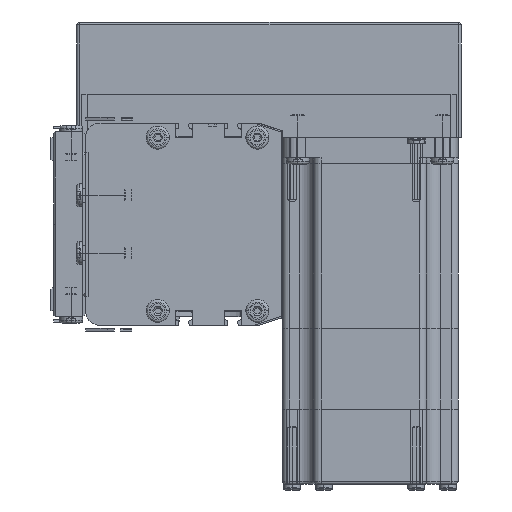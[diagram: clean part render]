
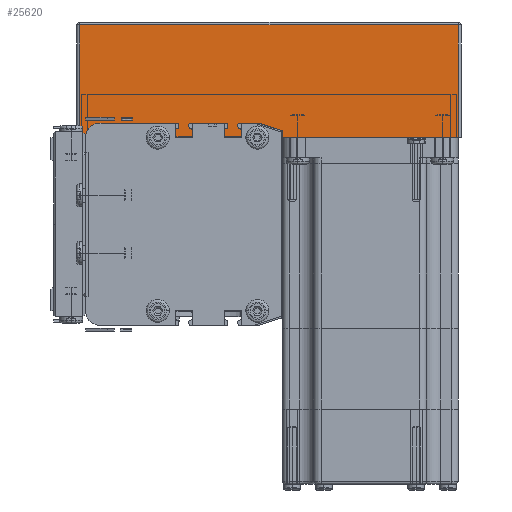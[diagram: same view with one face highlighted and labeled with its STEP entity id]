
A CAD part, left-side view. The second image highlights one B-rep face of the part: STEP entity #25620.
In plain terms, the highlighted planar face has unit normal (-1, 0, 0) as drawn and (0, 1, 0) by its records, which use the part's own axes.
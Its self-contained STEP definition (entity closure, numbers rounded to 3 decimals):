
#18943 = EDGE_CURVE ( 'NONE', #26835, #132988, #122580, .T. ) ;
#24122 = EDGE_CURVE ( 'NONE', #24124, #26027, #123865, .T. ) ;
#24124 = VERTEX_POINT ( 'NONE', #123861 ) ;
#24334 = EDGE_CURVE ( 'NONE', #132988, #24124, #124914, .T. ) ;
#25620 = ADVANCED_FACE ( 'NONE', ( #124970 ), #124969, .F. ) ;
#25700 = ORIENTED_EDGE ( 'NONE', *, *, #18943, .T. ) ;
#25702 = ORIENTED_EDGE ( 'NONE', *, *, #25704, .T. ) ;
#25704 = EDGE_CURVE ( 'NONE', #26027, #26835, #124965, .T. ) ;
#25831 = ORIENTED_EDGE ( 'NONE', *, *, #24334, .T. ) ;
#26017 = ORIENTED_EDGE ( 'NONE', *, *, #24122, .T. ) ;
#26027 = VERTEX_POINT ( 'NONE', #124992 ) ;
#26073 = EDGE_LOOP ( 'NONE', ( #26017, #25702, #25700, #25831 ) ) ;
#26835 = VERTEX_POINT ( 'NONE', #125830 ) ;
#89472 = CARTESIAN_POINT ( 'NONE',  ( 1., 62., 0. ) ) ;
#122575 = DIRECTION ( 'NONE',  ( -1., 0., 0. ) ) ;
#122576 = VECTOR ( 'NONE', #122575, 1000. ) ;
#122579 = CARTESIAN_POINT ( 'NONE',  ( 0., 62., 0. ) ) ;
#122580 = LINE ( 'NONE', #122579, #122576 ) ;
#123856 = DIRECTION ( 'NONE',  ( 1., 0., 0. ) ) ;
#123857 = VECTOR ( 'NONE', #123856, 1000. ) ;
#123861 = CARTESIAN_POINT ( 'NONE',  ( 1., 62., 39. ) ) ;
#123864 = CARTESIAN_POINT ( 'NONE',  ( 0., 62., 39. ) ) ;
#123865 = LINE ( 'NONE', #123864, #123857 ) ;
#124911 = DIRECTION ( 'NONE',  ( 0., 0., 1. ) ) ;
#124912 = VECTOR ( 'NONE', #124911, 1000. ) ;
#124913 = CARTESIAN_POINT ( 'NONE',  ( 1., 62., 40. ) ) ;
#124914 = LINE ( 'NONE', #124913, #124912 ) ;
#124961 = DIRECTION ( 'NONE',  ( 0., 0., -1. ) ) ;
#124962 = DIRECTION ( 'NONE',  ( 0., -1., 0. ) ) ;
#124963 = CARTESIAN_POINT ( 'NONE',  ( 0., 62., 40. ) ) ;
#124964 = AXIS2_PLACEMENT_3D ( 'NONE', #124963, #124962, #124961 ) ;
#124965 = LINE ( 'NONE', #125035, #125033 ) ;
#124969 = PLANE ( 'NONE',  #124964 ) ;
#124970 = FACE_OUTER_BOUND ( 'NONE', #26073, .T. ) ;
#124992 = CARTESIAN_POINT ( 'NONE',  ( 132., 62., 39. ) ) ;
#125032 = DIRECTION ( 'NONE',  ( 0., 0., -1. ) ) ;
#125033 = VECTOR ( 'NONE', #125032, 1000. ) ;
#125035 = CARTESIAN_POINT ( 'NONE',  ( 132., 62., 40. ) ) ;
#125830 = CARTESIAN_POINT ( 'NONE',  ( 132., 62., 0. ) ) ;
#132988 = VERTEX_POINT ( 'NONE', #89472 ) ;
